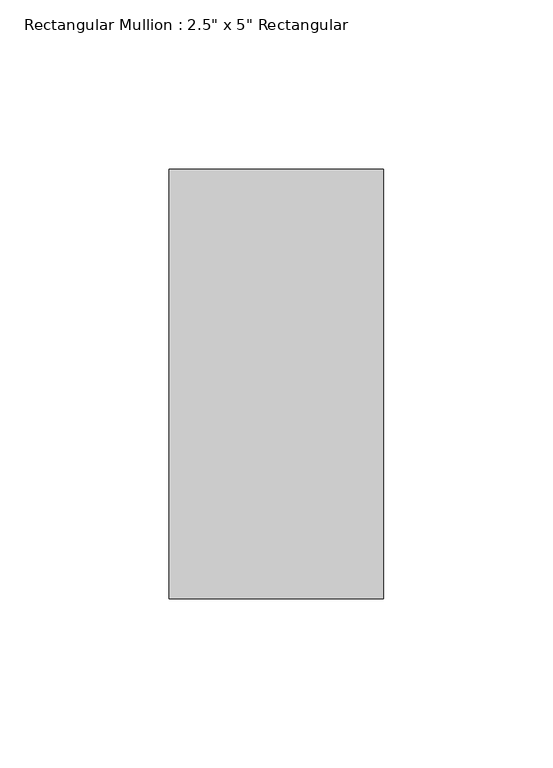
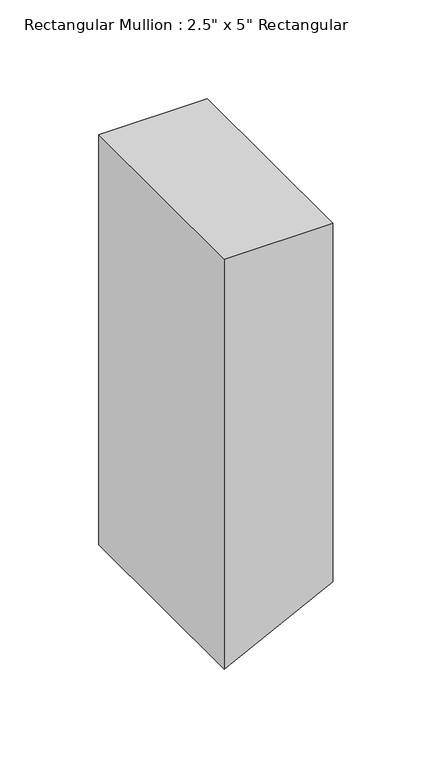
"""IFC4 building model written with IfcOpenShell, lengths in millimetres: member geometry."""

from ifc_helpers import new_model, si_unit, frame, origin, place, context, project, spatial, polyline, outline, extrude, source, transform, mapped, element, save


def member_374c6745(model_context):
    return source(origin(), model_context, "Body", "SweptSolid", [
        extrude(outline(polyline([(0.0, 31.75), (0.0, -31.75), (-253.2460429, -31.75), (-251.5700745, -28.3980633), (-221.4960429, 31.75), (0.0, 31.75)])), frame((0.0, -63.5, 0.0), z_axis=(0.0, 1.0, 0.0), x_axis=(0.0, 0.0, 1.0)), (0.0, 0.0, 1.0), 127.0),
    ])


if __name__ == "__main__":
    model = new_model("IFC4")
    model_context = context("Model", 3, world=origin())
    ifc_project = project(units=[si_unit("LENGTHUNIT", "METRE", prefix="MILLI")], contexts=[model_context])
    site = spatial("IfcSite", under=ifc_project)
    building = spatial("IfcBuilding", under=site)
    placement = place(None, origin())
    member_shape = member_374c6745(model_context)
    element("IfcMember", 1, ObjectType="Rectangular Mullion : 2.5\" x 5\" Rectangular", at=placement, inside=building, context=model_context, shape_type="MappedRepresentation", body=[
        mapped(member_shape, transform((0.0, 0.0, 0.0), x_axis=(1.0, 0.0, 0.0), y_axis=(0.0, 1.0, 0.0), z_axis=(0.0, 0.0, 1.0))),
    ])
    save(model, "model.ifc")
